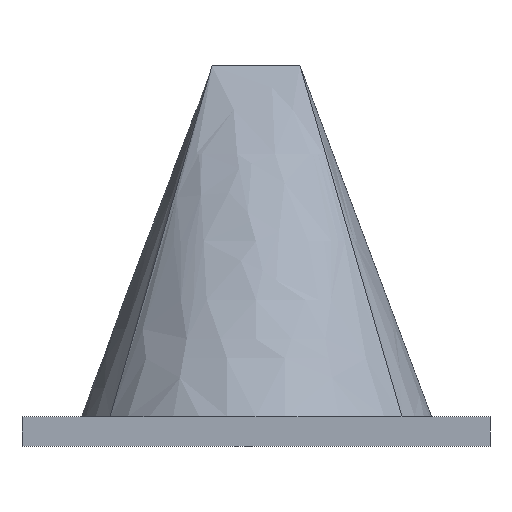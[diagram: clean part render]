
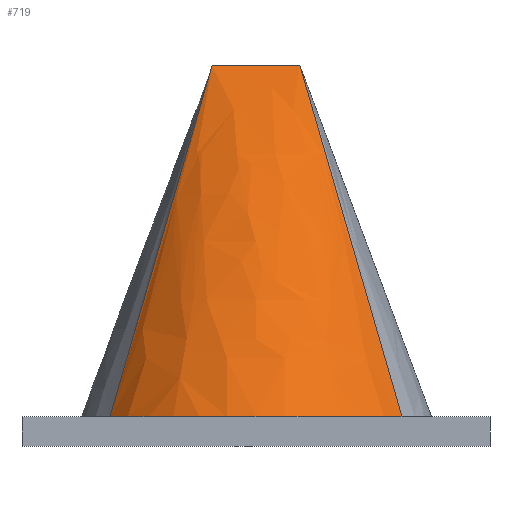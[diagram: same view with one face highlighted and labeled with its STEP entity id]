
A CAD part, front view. The second image highlights one B-rep face of the part: STEP entity #719.
In plain terms, the highlighted free-form (B-spline) face has degree [8, 1] with [9, 2] control points.
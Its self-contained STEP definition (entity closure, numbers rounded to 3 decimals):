
#126 = PLANE('',#127);
#127 = AXIS2_PLACEMENT_3D('',#128,#129,#130);
#128 = CARTESIAN_POINT('',(-20.,-20.,-13.75));
#129 = DIRECTION('',(0.,0.,1.));
#130 = DIRECTION('',(1.,0.,0.));
#307 = VERTEX_POINT('',#308);
#308 = CARTESIAN_POINT('',(12.481,-8.321,-13.75)
  );
#323 = B_SPLINE_SURFACE_WITH_KNOTS('',6,1,(
    (#324,#325)
    ,(#326,#327)
    ,(#328,#329)
    ,(#330,#331)
    ,(#332,#333)
    ,(#334,#335)
    ,(#336,#337
    )),.UNSPECIFIED.,.F.,.F.,.F.,(7,7),(2,2),(5.695,
    6.283),(0.,1.),.PIECEWISE_BEZIER_KNOTS.);
#324 = CARTESIAN_POINT('',(12.481,-8.321,-13.75)
  );
#325 = CARTESIAN_POINT('',(3.75,-2.5,16.25));
#326 = CARTESIAN_POINT('',(13.296,-7.097,-13.75)
  );
#327 = CARTESIAN_POINT('',(3.75,-2.083,16.25));
#328 = CARTESIAN_POINT('',(13.968,-5.778,-13.75)
  );
#329 = CARTESIAN_POINT('',(3.75,-1.667,16.25));
#330 = CARTESIAN_POINT('',(14.481,-4.385,-13.75)
  );
#331 = CARTESIAN_POINT('',(3.75,-1.25,16.25));
#332 = CARTESIAN_POINT('',(14.827,-2.94,-13.75)
  );
#333 = CARTESIAN_POINT('',(3.75,-0.833,16.25));
#334 = CARTESIAN_POINT('',(15.,-1.47,-13.75));
#335 = CARTESIAN_POINT('',(3.75,-0.417,16.25));
#336 = CARTESIAN_POINT('',(15.,0.,-13.75));
#337 = CARTESIAN_POINT('',(3.75,0.,16.25));
#345 = EDGE_CURVE('',#346,#307,#348,.T.);
#346 = VERTEX_POINT('',#347);
#347 = CARTESIAN_POINT('',(-12.481,-8.321,-13.75)
  );
#348 = SURFACE_CURVE('',#349,(#354,#361),.PCURVE_S1.);
#349 = CIRCLE('',#350,15.);
#350 = AXIS2_PLACEMENT_3D('',#351,#352,#353);
#351 = CARTESIAN_POINT('',(0.,0.,
    -13.75));
#352 = DIRECTION('',(0.,0.,1.));
#353 = DIRECTION('',(1.,0.,0.));
#354 = PCURVE('',#126,#355);
#355 = DEFINITIONAL_REPRESENTATION('',(#356),#360);
#356 = CIRCLE('',#357,15.);
#357 = AXIS2_PLACEMENT_2D('',#358,#359);
#358 = CARTESIAN_POINT('',(20.,20.));
#359 = DIRECTION('',(1.,0.));
#360 = ( GEOMETRIC_REPRESENTATION_CONTEXT(2) 
PARAMETRIC_REPRESENTATION_CONTEXT() REPRESENTATION_CONTEXT('2D SPACE',''
  ) );
#361 = PCURVE('',#362,#381);
#362 = B_SPLINE_SURFACE_WITH_KNOTS('',8,1,(
    (#363,#364)
    ,(#365,#366)
    ,(#367,#368)
    ,(#369,#370)
    ,(#371,#372)
    ,(#373,#374)
    ,(#375,#376)
    ,(#377,#378)
    ,(#379,#380
    )),.UNSPECIFIED.,.F.,.F.,.F.,(9,9),(2,2),(3.73,
    5.695),(0.,1.),.PIECEWISE_BEZIER_KNOTS.);
#363 = CARTESIAN_POINT('',(-12.481,-8.321,-13.75)
  );
#364 = CARTESIAN_POINT('',(-3.75,-2.5,16.25));
#365 = CARTESIAN_POINT('',(-10.436,-11.387,-13.75)
  );
#366 = CARTESIAN_POINT('',(-2.813,-2.5,16.25));
#367 = CARTESIAN_POINT('',(-7.531,-13.879,-13.75)
  );
#368 = CARTESIAN_POINT('',(-1.875,-2.5,16.25));
#369 = CARTESIAN_POINT('',(-3.953,-15.516,-13.75)
  );
#370 = CARTESIAN_POINT('',(-0.938,-2.5,16.25));
#371 = CARTESIAN_POINT('',(0.,-16.088,
    -13.75));
#372 = CARTESIAN_POINT('',(0.,-2.5,16.25));
#373 = CARTESIAN_POINT('',(3.953,-15.516,-13.75)
  );
#374 = CARTESIAN_POINT('',(0.938,-2.5,16.25));
#375 = CARTESIAN_POINT('',(7.531,-13.879,-13.75)
  );
#376 = CARTESIAN_POINT('',(1.875,-2.5,16.25));
#377 = CARTESIAN_POINT('',(10.436,-11.387,-13.75)
  );
#378 = CARTESIAN_POINT('',(2.813,-2.5,16.25));
#379 = CARTESIAN_POINT('',(12.481,-8.321,-13.75)
  );
#380 = CARTESIAN_POINT('',(3.75,-2.5,16.25));
#381 = DEFINITIONAL_REPRESENTATION('',(#382),#386);
#382 = LINE('',#383,#384);
#383 = CARTESIAN_POINT('',(0.,0.));
#384 = VECTOR('',#385,1.);
#385 = DIRECTION('',(1.,0.));
#386 = ( GEOMETRIC_REPRESENTATION_CONTEXT(2) 
PARAMETRIC_REPRESENTATION_CONTEXT() REPRESENTATION_CONTEXT('2D SPACE',''
  ) );
#405 = B_SPLINE_SURFACE_WITH_KNOTS('',7,1,(
    (#406,#407)
    ,(#408,#409)
    ,(#410,#411)
    ,(#412,#413)
    ,(#414,#415)
    ,(#416,#417)
    ,(#418,#419)
    ,(#420,#421
    )),.UNSPECIFIED.,.F.,.F.,.F.,(8,8),(2,2),(2.554,
    3.73),(0.,1.),.PIECEWISE_BEZIER_KNOTS.);
#406 = CARTESIAN_POINT('',(-12.481,8.321,-13.75)
  );
#407 = CARTESIAN_POINT('',(-3.75,2.5,16.25));
#408 = CARTESIAN_POINT('',(-13.879,6.224,-13.75)
  );
#409 = CARTESIAN_POINT('',(-3.75,1.786,16.25));
#410 = CARTESIAN_POINT('',(-14.865,3.853,-13.75)
  );
#411 = CARTESIAN_POINT('',(-3.75,1.071,16.25));
#412 = CARTESIAN_POINT('',(-15.377,1.305,-13.75)
  );
#413 = CARTESIAN_POINT('',(-3.75,0.357,16.25));
#414 = CARTESIAN_POINT('',(-15.377,-1.305,-13.75)
  );
#415 = CARTESIAN_POINT('',(-3.75,-0.357,16.25));
#416 = CARTESIAN_POINT('',(-14.865,-3.853,-13.75)
  );
#417 = CARTESIAN_POINT('',(-3.75,-1.071,16.25));
#418 = CARTESIAN_POINT('',(-13.879,-6.224,-13.75)
  );
#419 = CARTESIAN_POINT('',(-3.75,-1.786,16.25));
#420 = CARTESIAN_POINT('',(-12.481,-8.321,-13.75)
  );
#421 = CARTESIAN_POINT('',(-3.75,-2.5,16.25));
#594 = PLANE('',#595);
#595 = AXIS2_PLACEMENT_3D('',#596,#597,#598);
#596 = CARTESIAN_POINT('',(3.75,0.,16.25));
#597 = DIRECTION('',(0.,0.,1.));
#598 = DIRECTION('',(-0.949,0.316,0.));
#677 = EDGE_CURVE('',#346,#678,#680,.T.);
#678 = VERTEX_POINT('',#679);
#679 = CARTESIAN_POINT('',(-3.75,-2.5,16.25));
#680 = SURFACE_CURVE('',#681,(#684,#691),.PCURVE_S1.);
#681 = B_SPLINE_CURVE_WITH_KNOTS('',1,(#682,#683),.UNSPECIFIED.,.F.,.F.,
  (2,2),(0.,1.),.PIECEWISE_BEZIER_KNOTS.);
#682 = CARTESIAN_POINT('',(-12.481,-8.321,-13.75)
  );
#683 = CARTESIAN_POINT('',(-3.75,-2.5,16.25));
#684 = PCURVE('',#405,#685);
#685 = DEFINITIONAL_REPRESENTATION('',(#686),#690);
#686 = LINE('',#687,#688);
#687 = CARTESIAN_POINT('',(3.73,0.));
#688 = VECTOR('',#689,1.);
#689 = DIRECTION('',(0.,1.));
#690 = ( GEOMETRIC_REPRESENTATION_CONTEXT(2) 
PARAMETRIC_REPRESENTATION_CONTEXT() REPRESENTATION_CONTEXT('2D SPACE',''
  ) );
#691 = PCURVE('',#362,#692);
#692 = DEFINITIONAL_REPRESENTATION('',(#693),#697);
#693 = LINE('',#694,#695);
#694 = CARTESIAN_POINT('',(3.73,0.));
#695 = VECTOR('',#696,1.);
#696 = DIRECTION('',(0.,1.));
#697 = ( GEOMETRIC_REPRESENTATION_CONTEXT(2) 
PARAMETRIC_REPRESENTATION_CONTEXT() REPRESENTATION_CONTEXT('2D SPACE',''
  ) );
#719 = ADVANCED_FACE('',(#720),#362,.T.);
#720 = FACE_BOUND('',#721,.T.);
#721 = EDGE_LOOP('',(#722,#723,#745,#765));
#722 = ORIENTED_EDGE('',*,*,#345,.T.);
#723 = ORIENTED_EDGE('',*,*,#724,.T.);
#724 = EDGE_CURVE('',#307,#725,#727,.T.);
#725 = VERTEX_POINT('',#726);
#726 = CARTESIAN_POINT('',(3.75,-2.5,16.25));
#727 = SURFACE_CURVE('',#728,(#731,#738),.PCURVE_S1.);
#728 = B_SPLINE_CURVE_WITH_KNOTS('',1,(#729,#730),.UNSPECIFIED.,.F.,.F.,
  (2,2),(0.,1.),.PIECEWISE_BEZIER_KNOTS.);
#729 = CARTESIAN_POINT('',(12.481,-8.321,-13.75)
  );
#730 = CARTESIAN_POINT('',(3.75,-2.5,16.25));
#731 = PCURVE('',#362,#732);
#732 = DEFINITIONAL_REPRESENTATION('',(#733),#737);
#733 = LINE('',#734,#735);
#734 = CARTESIAN_POINT('',(5.695,0.));
#735 = VECTOR('',#736,1.);
#736 = DIRECTION('',(0.,1.));
#737 = ( GEOMETRIC_REPRESENTATION_CONTEXT(2) 
PARAMETRIC_REPRESENTATION_CONTEXT() REPRESENTATION_CONTEXT('2D SPACE',''
  ) );
#738 = PCURVE('',#323,#739);
#739 = DEFINITIONAL_REPRESENTATION('',(#740),#744);
#740 = LINE('',#741,#742);
#741 = CARTESIAN_POINT('',(5.695,0.));
#742 = VECTOR('',#743,1.);
#743 = DIRECTION('',(0.,1.));
#744 = ( GEOMETRIC_REPRESENTATION_CONTEXT(2) 
PARAMETRIC_REPRESENTATION_CONTEXT() REPRESENTATION_CONTEXT('2D SPACE',''
  ) );
#745 = ORIENTED_EDGE('',*,*,#746,.F.);
#746 = EDGE_CURVE('',#678,#725,#747,.T.);
#747 = SURFACE_CURVE('',#748,(#752,#758),.PCURVE_S1.);
#748 = LINE('',#749,#750);
#749 = CARTESIAN_POINT('',(-3.75,-2.5,16.25));
#750 = VECTOR('',#751,1.);
#751 = DIRECTION('',(1.,0.,0.));
#752 = PCURVE('',#362,#753);
#753 = DEFINITIONAL_REPRESENTATION('',(#754),#757);
#754 = B_SPLINE_CURVE_WITH_KNOTS('',1,(#755,#756),.UNSPECIFIED.,.F.,.F.,
  (2,2),(0.,7.5),.PIECEWISE_BEZIER_KNOTS.);
#755 = CARTESIAN_POINT('',(3.73,1.));
#756 = CARTESIAN_POINT('',(5.695,1.));
#757 = ( GEOMETRIC_REPRESENTATION_CONTEXT(2) 
PARAMETRIC_REPRESENTATION_CONTEXT() REPRESENTATION_CONTEXT('2D SPACE',''
  ) );
#758 = PCURVE('',#594,#759);
#759 = DEFINITIONAL_REPRESENTATION('',(#760),#764);
#760 = LINE('',#761,#762);
#761 = CARTESIAN_POINT('',(6.325,4.743));
#762 = VECTOR('',#763,1.);
#763 = DIRECTION('',(-0.949,-0.316));
#764 = ( GEOMETRIC_REPRESENTATION_CONTEXT(2) 
PARAMETRIC_REPRESENTATION_CONTEXT() REPRESENTATION_CONTEXT('2D SPACE',''
  ) );
#765 = ORIENTED_EDGE('',*,*,#677,.F.);
